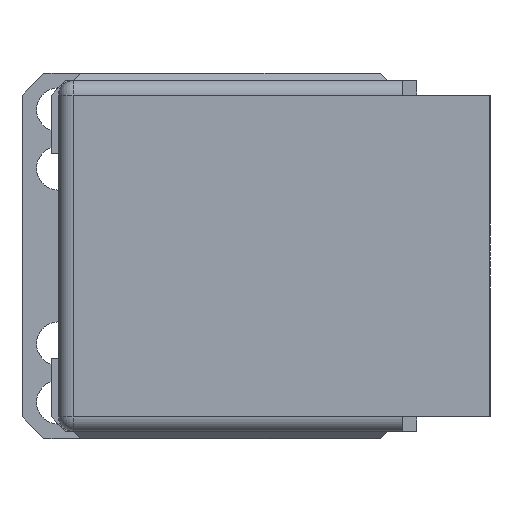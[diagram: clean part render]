
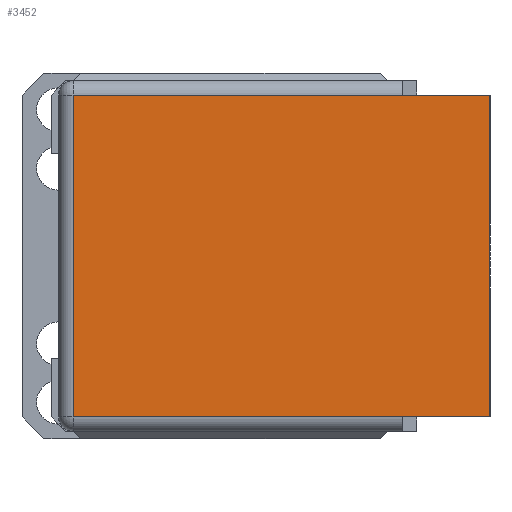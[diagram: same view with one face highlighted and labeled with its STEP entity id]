
A CAD part, left-side view. The second image highlights one B-rep face of the part: STEP entity #3452.
In plain terms, the highlighted planar face has unit normal (-1, 0, 0).
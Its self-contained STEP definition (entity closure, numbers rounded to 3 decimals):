
#44 = ORIENTED_EDGE ( 'NONE', *, *, #2630, .T. ) ;
#68 = VERTEX_POINT ( 'NONE', #1066 ) ;
#119 = VECTOR ( 'NONE', #2137, 1000. ) ;
#265 = VERTEX_POINT ( 'NONE', #3378 ) ;
#436 = ORIENTED_EDGE ( 'NONE', *, *, #1981, .T. ) ;
#530 = AXIS2_PLACEMENT_3D ( 'NONE', #614, #4368, #2105 ) ;
#614 = CARTESIAN_POINT ( 'NONE',  ( 0., 6., 11. ) ) ;
#716 = LINE ( 'NONE', #2227, #3569 ) ;
#826 = VERTEX_POINT ( 'NONE', #2785 ) ;
#827 = LINE ( 'NONE', #1728, #2702 ) ;
#839 = CARTESIAN_POINT ( 'NONE',  ( 0., 6., 11. ) ) ;
#890 = LINE ( 'NONE', #3639, #2757 ) ;
#1066 = CARTESIAN_POINT ( 'NONE',  ( 0., 0., 11. ) ) ;
#1250 = LINE ( 'NONE', #1386, #119 ) ;
#1361 = PLANE ( 'NONE',  #530 ) ;
#1386 = CARTESIAN_POINT ( 'NONE',  ( 0., 6., -11. ) ) ;
#1416 = VERTEX_POINT ( 'NONE', #1740 ) ;
#1555 = ORIENTED_EDGE ( 'NONE', *, *, #2876, .T. ) ;
#1682 = CARTESIAN_POINT ( 'NONE',  ( 0., 28.5, -11. ) ) ;
#1686 = ORIENTED_EDGE ( 'NONE', *, *, #2783, .T. ) ;
#1728 = CARTESIAN_POINT ( 'NONE',  ( 0., 6., -11. ) ) ;
#1740 = CARTESIAN_POINT ( 'NONE',  ( 0., 0., -11. ) ) ;
#1981 = EDGE_CURVE ( 'NONE', #826, #3803, #716, .T. ) ;
#2104 = DIRECTION ( 'NONE',  ( 0., -1., 0. ) ) ;
#2105 = DIRECTION ( 'NONE',  ( 0., 0., -1. ) ) ;
#2137 = DIRECTION ( 'NONE',  ( 0., -1., 0. ) ) ;
#2227 = CARTESIAN_POINT ( 'NONE',  ( 0., 28.5, 11. ) ) ;
#2369 = DIRECTION ( 'NONE',  ( 0., -1., 0. ) ) ;
#2630 = EDGE_CURVE ( 'NONE', #3803, #265, #827, .T. ) ;
#2702 = VECTOR ( 'NONE', #2104, 1000. ) ;
#2757 = VECTOR ( 'NONE', #4032, 1000. ) ;
#2783 = EDGE_CURVE ( 'NONE', #1416, #68, #3229, .T. ) ;
#2785 = CARTESIAN_POINT ( 'NONE',  ( 0., 28.5, 11. ) ) ;
#2859 = EDGE_CURVE ( 'NONE', #265, #1416, #1250, .T. ) ;
#2876 = EDGE_CURVE ( 'NONE', #3605, #826, #890, .T. ) ;
#3229 = LINE ( 'NONE', #4093, #3355 ) ;
#3345 = DIRECTION ( 'NONE',  ( 0., 0., 1. ) ) ;
#3355 = VECTOR ( 'NONE', #3345, 1000. ) ;
#3378 = CARTESIAN_POINT ( 'NONE',  ( 0., 6., -11. ) ) ;
#3452 = ADVANCED_FACE ( 'NONE', ( #3724 ), #1361, .F. ) ;
#3480 = CARTESIAN_POINT ( 'NONE',  ( 0., 6., 11. ) ) ;
#3569 = VECTOR ( 'NONE', #4833, 1000. ) ;
#3605 = VERTEX_POINT ( 'NONE', #839 ) ;
#3639 = CARTESIAN_POINT ( 'NONE',  ( 0., 6., 11. ) ) ;
#3642 = VECTOR ( 'NONE', #2369, 1000. ) ;
#3644 = EDGE_LOOP ( 'NONE', ( #436, #44, #4307, #1686, #3895, #1555 ) ) ;
#3724 = FACE_OUTER_BOUND ( 'NONE', #3644, .T. ) ;
#3770 = LINE ( 'NONE', #3480, #3642 ) ;
#3803 = VERTEX_POINT ( 'NONE', #1682 ) ;
#3895 = ORIENTED_EDGE ( 'NONE', *, *, #4497, .F. ) ;
#4032 = DIRECTION ( 'NONE',  ( 0., 1., 0. ) ) ;
#4093 = CARTESIAN_POINT ( 'NONE',  ( 0., 0., 11. ) ) ;
#4307 = ORIENTED_EDGE ( 'NONE', *, *, #2859, .T. ) ;
#4368 = DIRECTION ( 'NONE',  ( 1., 0., 0. ) ) ;
#4497 = EDGE_CURVE ( 'NONE', #3605, #68, #3770, .T. ) ;
#4833 = DIRECTION ( 'NONE',  ( 0., 0., -1. ) ) ;
